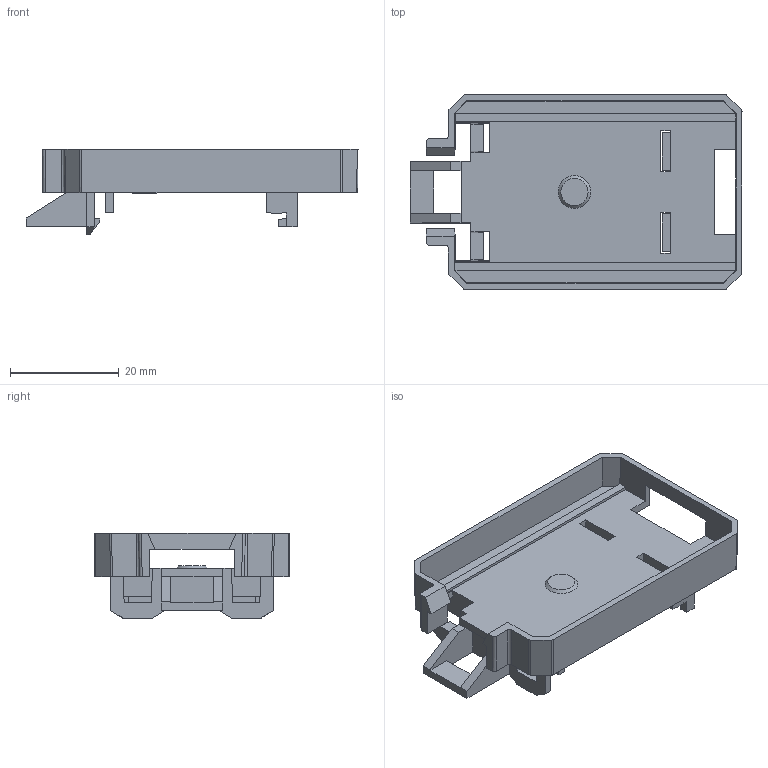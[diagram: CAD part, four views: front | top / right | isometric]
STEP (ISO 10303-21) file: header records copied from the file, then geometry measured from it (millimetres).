
FILE_DESCRIPTION( ( 'Unknown' ), '1' );
FILE_NAME( 'C:/Users/pdellaca/Desktop/Museruola 66/166783.stp', 'Unknown', ( 'Unknown' ), ( 'Unknown' ), 'PSStep 15.0.49', 'Unknown', ' ' );
FILE_SCHEMA( ( 'AUTOMOTIVE_DESIGN { 1 0 10303 214 1 1 1 1 }' ) );
Length unit declared in the file: millimetre
Products named in the file (1): top
Bounding box: 61.18 x 35.91 x 15.8 mm (x, y, z)
Volume: 4906.8 mm3; surface area: 7598.3 mm2
Topology: 1 solids, 1 shells, 288 faces, 838 edges, 556 vertices
Faces by surface type: plane 165, extrusion 72, cylinder 40, sphere 5, bspline 4, cone 2
Entity records: 13221 total; most frequent: CARTESIAN_POINT 3548, ORIENTED_EDGE 1672, DIRECTION 1252, EDGE_CURVE 836, VECTOR 626, VERTEX_POINT 556, LINE 554, AXIS2_PLACEMENT_3D 313
